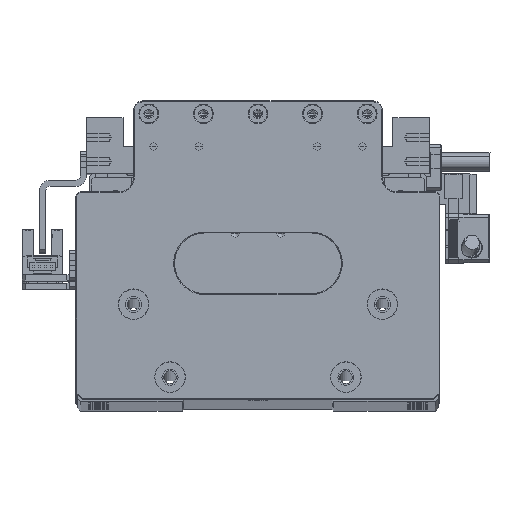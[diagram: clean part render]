
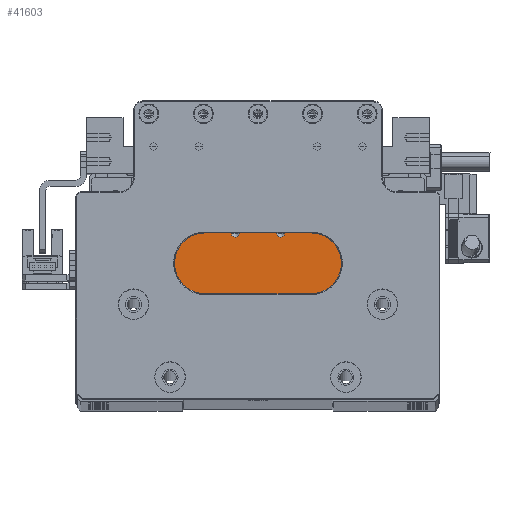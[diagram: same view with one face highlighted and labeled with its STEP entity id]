
A CAD part, top view. The second image highlights one B-rep face of the part: STEP entity #41603.
In plain terms, the highlighted planar face has unit normal (0, 0, 1).
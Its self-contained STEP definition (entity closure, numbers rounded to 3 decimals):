
#1318 = FACE_BOUND ( 'NONE', #74420, .T. ) ;
#2512 = EDGE_LOOP ( 'NONE', ( #35587, #37100 ) ) ;
#5020 = DIRECTION ( 'NONE',  ( -1., 0., 0. ) ) ;
#5080 = ORIENTED_EDGE ( 'NONE', *, *, #66722, .T. ) ;
#5933 = VECTOR ( 'NONE', #25109, 1000. ) ;
#6486 = LINE ( 'NONE', #20608, #62431 ) ;
#6712 = ORIENTED_EDGE ( 'NONE', *, *, #69289, .T. ) ;
#9564 = LINE ( 'NONE', #43238, #35908 ) ;
#9731 = VERTEX_POINT ( 'NONE', #96331 ) ;
#10013 = EDGE_CURVE ( 'NONE', #89571, #59483, #9564, .T. ) ;
#11815 = DIRECTION ( 'NONE',  ( 0., 0., -1. ) ) ;
#14146 = CARTESIAN_POINT ( 'NONE',  ( -4.632, -9.023, 340. ) ) ;
#16676 = AXIS2_PLACEMENT_3D ( 'NONE', #27522, #97073, #37522 ) ;
#18365 = CARTESIAN_POINT ( 'NONE',  ( -34.432, -17.023, 340. ) ) ;
#19600 = VECTOR ( 'NONE', #67714, 1000. ) ;
#19775 = CARTESIAN_POINT ( 'NONE',  ( -12.132, -17.023, 340. ) ) ;
#20608 = CARTESIAN_POINT ( 'NONE',  ( 13.868, -9.023, 340. ) ) ;
#20663 = ORIENTED_EDGE ( 'NONE', *, *, #95217, .T. ) ;
#22170 = ORIENTED_EDGE ( 'NONE', *, *, #73518, .T. ) ;
#22288 = VERTEX_POINT ( 'NONE', #76253 ) ;
#22333 = VERTEX_POINT ( 'NONE', #76670 ) ;
#23579 = CARTESIAN_POINT ( 'NONE',  ( -4.632, -17.023, 340. ) ) ;
#24091 = PLANE ( 'NONE',  #46189 ) ;
#25109 = DIRECTION ( 'NONE',  ( 1., 0., 0. ) ) ;
#26151 = CARTESIAN_POINT ( 'NONE',  ( 4.118, -17.023, 340. ) ) ;
#27522 = CARTESIAN_POINT ( 'NONE',  ( -12.132, -17.023, 340. ) ) ;
#29238 = ORIENTED_EDGE ( 'NONE', *, *, #122389, .T. ) ;
#29744 = DIRECTION ( 'NONE',  ( 1., 0., 0. ) ) ;
#30417 = DIRECTION ( 'NONE',  ( 0., -1., 0. ) ) ;
#32490 = CIRCLE ( 'NONE', #88890, 1.25 ) ;
#34035 = CIRCLE ( 'NONE', #56793, 1.25 ) ;
#34110 = DIRECTION ( 'NONE',  ( 1., 0., 0. ) ) ;
#35587 = ORIENTED_EDGE ( 'NONE', *, *, #80131, .T. ) ;
#35908 = VECTOR ( 'NONE', #122738, 1000. ) ;
#36274 = VECTOR ( 'NONE', #30417, 1000. ) ;
#37100 = ORIENTED_EDGE ( 'NONE', *, *, #118197, .T. ) ;
#37522 = DIRECTION ( 'NONE',  ( 1., 0., 0. ) ) ;
#37752 = CARTESIAN_POINT ( 'NONE',  ( 13.868, -17.023, 340. ) ) ;
#39346 = DIRECTION ( 'NONE',  ( 0., 0., -1. ) ) ;
#40409 = CARTESIAN_POINT ( 'NONE',  ( -23.132, -9.023, 340. ) ) ;
#41603 = ADVANCED_FACE ( 'NONE', ( #54143, #51027, #1318 ), #24091, .T. ) ;
#43238 = CARTESIAN_POINT ( 'NONE',  ( -34.432, -9.023, 340. ) ) ;
#45728 = VERTEX_POINT ( 'NONE', #120121 ) ;
#46035 = LINE ( 'NONE', #57707, #19600 ) ;
#46189 = AXIS2_PLACEMENT_3D ( 'NONE', #14146, #53651, #34110 ) ;
#49882 = EDGE_CURVE ( 'NONE', #45728, #108546, #46035, .T. ) ;
#50344 = ORIENTED_EDGE ( 'NONE', *, *, #49882, .T. ) ;
#50595 = LINE ( 'NONE', #23579, #77047 ) ;
#51027 = FACE_BOUND ( 'NONE', #2512, .T. ) ;
#51028 = DIRECTION ( 'NONE',  ( 0., 1., 0. ) ) ;
#53651 = DIRECTION ( 'NONE',  ( 0., 0., 1. ) ) ;
#54143 = FACE_OUTER_BOUND ( 'NONE', #91066, .T. ) ;
#55800 = EDGE_CURVE ( 'NONE', #63814, #22333, #32490, .T. ) ;
#56793 = AXIS2_PLACEMENT_3D ( 'NONE', #71295, #11815, #81253 ) ;
#57205 = ORIENTED_EDGE ( 'NONE', *, *, #55800, .T. ) ;
#57678 = VERTEX_POINT ( 'NONE', #100298 ) ;
#57707 = CARTESIAN_POINT ( 'NONE',  ( -4.632, -9.223, 340. ) ) ;
#59483 = VERTEX_POINT ( 'NONE', #80723 ) ;
#62431 = VECTOR ( 'NONE', #51028, 1000. ) ;
#63814 = VERTEX_POINT ( 'NONE', #115651 ) ;
#64929 = AXIS2_PLACEMENT_3D ( 'NONE', #98889, #39346, #108867 ) ;
#66722 = EDGE_CURVE ( 'NONE', #22288, #89571, #50595, .T. ) ;
#67714 = DIRECTION ( 'NONE',  ( -1., 0., 0. ) ) ;
#69289 = EDGE_CURVE ( 'NONE', #108546, #22288, #89145, .T. ) ;
#71295 = CARTESIAN_POINT ( 'NONE',  ( 2.868, -17.023, 340. ) ) ;
#71439 = VERTEX_POINT ( 'NONE', #26151 ) ;
#72076 = LINE ( 'NONE', #104540, #95402 ) ;
#73518 = EDGE_CURVE ( 'NONE', #106588, #57678, #124627, .T. ) ;
#74420 = EDGE_LOOP ( 'NONE', ( #29238, #57205 ) ) ;
#76253 = CARTESIAN_POINT ( 'NONE',  ( -23.132, -17.023, 340. ) ) ;
#76670 = CARTESIAN_POINT ( 'NONE',  ( -10.882, -17.023, 340. ) ) ;
#77047 = VECTOR ( 'NONE', #83128, 1000. ) ;
#80131 = EDGE_CURVE ( 'NONE', #71439, #9731, #88993, .T. ) ;
#80723 = CARTESIAN_POINT ( 'NONE',  ( -34.432, -49.023, 340. ) ) ;
#81253 = DIRECTION ( 'NONE',  ( 1., 0., 0. ) ) ;
#81691 = CARTESIAN_POINT ( 'NONE',  ( 25.168, -49.023, 340. ) ) ;
#82434 = VERTEX_POINT ( 'NONE', #37752 ) ;
#83128 = DIRECTION ( 'NONE',  ( -1., 0., 0. ) ) ;
#84650 = CARTESIAN_POINT ( 'NONE',  ( -34.632, -49.023, 340. ) ) ;
#85440 = DIRECTION ( 'NONE',  ( 0., 1., 0. ) ) ;
#85773 = ORIENTED_EDGE ( 'NONE', *, *, #121966, .T. ) ;
#88890 = AXIS2_PLACEMENT_3D ( 'NONE', #19775, #89274, #29744 ) ;
#88993 = CIRCLE ( 'NONE', #64929, 1.25 ) ;
#89145 = LINE ( 'NONE', #40409, #36274 ) ;
#89274 = DIRECTION ( 'NONE',  ( 0., 0., -1. ) ) ;
#89571 = VERTEX_POINT ( 'NONE', #18365 ) ;
#90670 = EDGE_CURVE ( 'NONE', #57678, #82434, #72076, .T. ) ;
#91066 = EDGE_LOOP ( 'NONE', ( #50344, #6712, #5080, #112299, #20663, #22170, #126309, #85773 ) ) ;
#95217 = EDGE_CURVE ( 'NONE', #59483, #106588, #105443, .T. ) ;
#95402 = VECTOR ( 'NONE', #5020, 1000. ) ;
#95869 = CARTESIAN_POINT ( 'NONE',  ( 25.168, -9.023, 340. ) ) ;
#96331 = CARTESIAN_POINT ( 'NONE',  ( 1.618, -17.023, 340. ) ) ;
#97073 = DIRECTION ( 'NONE',  ( 0., 0., -1. ) ) ;
#97500 = CARTESIAN_POINT ( 'NONE',  ( -23.132, -9.223, 340. ) ) ;
#98889 = CARTESIAN_POINT ( 'NONE',  ( 2.868, -17.023, 340. ) ) ;
#100298 = CARTESIAN_POINT ( 'NONE',  ( 25.168, -17.023, 340. ) ) ;
#104540 = CARTESIAN_POINT ( 'NONE',  ( -4.632, -17.023, 340. ) ) ;
#105443 = LINE ( 'NONE', #84650, #5933 ) ;
#106588 = VERTEX_POINT ( 'NONE', #81691 ) ;
#108546 = VERTEX_POINT ( 'NONE', #97500 ) ;
#108867 = DIRECTION ( 'NONE',  ( 1., 0., 0. ) ) ;
#112299 = ORIENTED_EDGE ( 'NONE', *, *, #10013, .T. ) ;
#115651 = CARTESIAN_POINT ( 'NONE',  ( -13.382, -17.023, 340. ) ) ;
#118197 = EDGE_CURVE ( 'NONE', #9731, #71439, #34035, .T. ) ;
#120121 = CARTESIAN_POINT ( 'NONE',  ( 13.868, -9.223, 340. ) ) ;
#121408 = CIRCLE ( 'NONE', #16676, 1.25 ) ;
#121500 = VECTOR ( 'NONE', #85440, 1000. ) ;
#121966 = EDGE_CURVE ( 'NONE', #82434, #45728, #6486, .T. ) ;
#122389 = EDGE_CURVE ( 'NONE', #22333, #63814, #121408, .T. ) ;
#122738 = DIRECTION ( 'NONE',  ( 0., -1., 0. ) ) ;
#124627 = LINE ( 'NONE', #95869, #121500 ) ;
#126309 = ORIENTED_EDGE ( 'NONE', *, *, #90670, .T. ) ;
